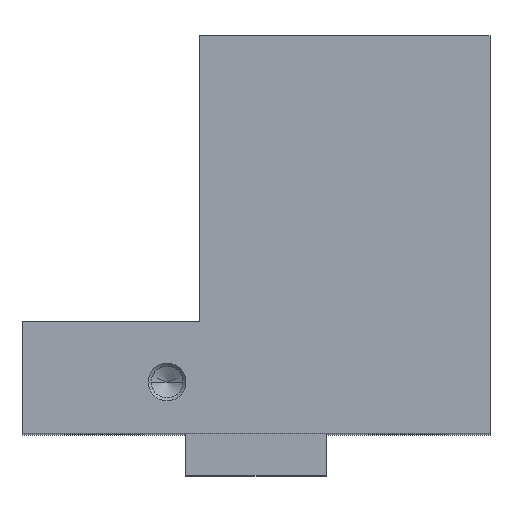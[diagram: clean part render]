
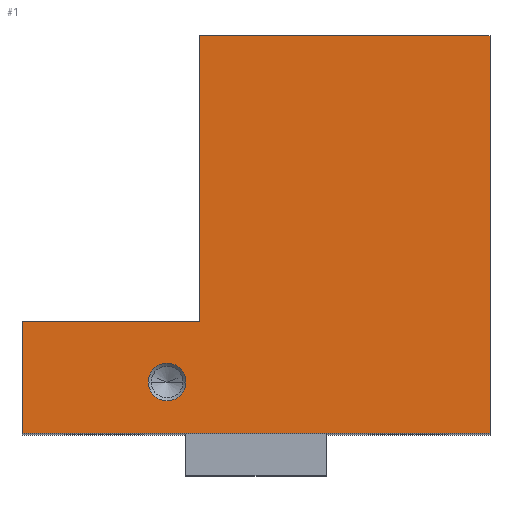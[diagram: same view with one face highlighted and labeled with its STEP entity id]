
A CAD part, top view. The second image highlights one B-rep face of the part: STEP entity #1.
In plain terms, the highlighted planar face has unit normal (0, 0, 1).
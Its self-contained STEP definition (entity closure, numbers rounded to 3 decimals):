
#1 = ADVANCED_FACE ( 'NONE', ( #423, #422 ), #421, .T. ) ;
#8 = EDGE_CURVE ( 'NONE', #303, #84, #412, .T. ) ;
#11 = EDGE_CURVE ( 'NONE', #117, #228, #408, .T. ) ;
#15 = VERTEX_POINT ( 'NONE', #404 ) ;
#17 = EDGE_CURVE ( 'NONE', #228, #15, #573, .T. ) ;
#53 = VERTEX_POINT ( 'NONE', #583 ) ;
#55 = EDGE_CURVE ( 'NONE', #53, #239, #591, .T. ) ;
#81 = VERTEX_POINT ( 'NONE', #808 ) ;
#83 = EDGE_CURVE ( 'NONE', #84, #81, #807, .T. ) ;
#84 = VERTEX_POINT ( 'NONE', #803 ) ;
#100 = EDGE_LOOP ( 'NONE', ( #328, #330 ) ) ;
#117 = VERTEX_POINT ( 'NONE', #627 ) ;
#219 = EDGE_CURVE ( 'NONE', #81, #117, #1448, .T. ) ;
#228 = VERTEX_POINT ( 'NONE', #1429 ) ;
#239 = VERTEX_POINT ( 'NONE', #1413 ) ;
#303 = VERTEX_POINT ( 'NONE', #1248 ) ;
#328 = ORIENTED_EDGE ( 'NONE', *, *, #329, .F. ) ;
#329 = EDGE_CURVE ( 'NONE', #239, #53, #1372, .T. ) ;
#330 = ORIENTED_EDGE ( 'NONE', *, *, #55, .F. ) ;
#404 = CARTESIAN_POINT ( 'NONE',  ( -12., 93.9, 101. ) ) ;
#405 = DIRECTION ( 'NONE',  ( 0., 1., 0. ) ) ;
#406 = VECTOR ( 'NONE', #405, 1000. ) ;
#407 = CARTESIAN_POINT ( 'NONE',  ( 50., 8.9, 101. ) ) ;
#408 = LINE ( 'NONE', #407, #406 ) ;
#409 = DIRECTION ( 'NONE',  ( -1., 0., 0. ) ) ;
#410 = VECTOR ( 'NONE', #409, 1000. ) ;
#411 = CARTESIAN_POINT ( 'NONE',  ( -50., 32.9, 101. ) ) ;
#412 = LINE ( 'NONE', #411, #410 ) ;
#417 = DIRECTION ( 'NONE',  ( 1., 0., 0. ) ) ;
#418 = DIRECTION ( 'NONE',  ( 0., 0., 1. ) ) ;
#419 = CARTESIAN_POINT ( 'NONE',  ( -50., 8.9, 101. ) ) ;
#420 = AXIS2_PLACEMENT_3D ( 'NONE', #419, #418, #417 ) ;
#421 = PLANE ( 'NONE',  #420 ) ;
#422 = FACE_OUTER_BOUND ( 'NONE', #507, .T. ) ;
#423 = FACE_BOUND ( 'NONE', #100, .T. ) ;
#507 = EDGE_LOOP ( 'NONE', ( #508, #509, #510, #511, #512, #513 ) ) ;
#508 = ORIENTED_EDGE ( 'NONE', *, *, #219, .T. ) ;
#509 = ORIENTED_EDGE ( 'NONE', *, *, #11, .T. ) ;
#510 = ORIENTED_EDGE ( 'NONE', *, *, #17, .T. ) ;
#511 = ORIENTED_EDGE ( 'NONE', *, *, #530, .T. ) ;
#512 = ORIENTED_EDGE ( 'NONE', *, *, #8, .T. ) ;
#513 = ORIENTED_EDGE ( 'NONE', *, *, #83, .T. ) ;
#530 = EDGE_CURVE ( 'NONE', #15, #303, #920, .T. ) ;
#570 = DIRECTION ( 'NONE',  ( -1., 0., 0. ) ) ;
#571 = VECTOR ( 'NONE', #570, 1000. ) ;
#572 = CARTESIAN_POINT ( 'NONE',  ( 50., 93.9, 101. ) ) ;
#573 = LINE ( 'NONE', #572, #571 ) ;
#576 = CARTESIAN_POINT ( 'NONE',  ( -19., 19.9, 101. ) ) ;
#583 = CARTESIAN_POINT ( 'NONE',  ( -23.025, 19.9, 101. ) ) ;
#590 = AXIS2_PLACEMENT_3D ( 'NONE', #576, #594, #593 ) ;
#591 = CIRCLE ( 'NONE', #590, 4.025 ) ;
#593 = DIRECTION ( 'NONE',  ( 1., 0., 0. ) ) ;
#594 = DIRECTION ( 'NONE',  ( 0., 0., 1. ) ) ;
#627 = CARTESIAN_POINT ( 'NONE',  ( 50., 8.9, 101. ) ) ;
#803 = CARTESIAN_POINT ( 'NONE',  ( -50., 32.9, 101. ) ) ;
#804 = DIRECTION ( 'NONE',  ( 0., -1., 0. ) ) ;
#805 = VECTOR ( 'NONE', #804, 1000. ) ;
#806 = CARTESIAN_POINT ( 'NONE',  ( -50., 32.9, 101. ) ) ;
#807 = LINE ( 'NONE', #806, #805 ) ;
#808 = CARTESIAN_POINT ( 'NONE',  ( -50., 8.9, 101. ) ) ;
#917 = DIRECTION ( 'NONE',  ( 0., -1., 0. ) ) ;
#918 = VECTOR ( 'NONE', #917, 1000. ) ;
#919 = CARTESIAN_POINT ( 'NONE',  ( -12., 93.9, 101. ) ) ;
#920 = LINE ( 'NONE', #919, #918 ) ;
#1248 = CARTESIAN_POINT ( 'NONE',  ( -12., 32.9, 101. ) ) ;
#1369 = DIRECTION ( 'NONE',  ( 1., 0., 0. ) ) ;
#1370 = DIRECTION ( 'NONE',  ( 0., 0., 1. ) ) ;
#1371 = AXIS2_PLACEMENT_3D ( 'NONE', #1377, #1370, #1369 ) ;
#1372 = CIRCLE ( 'NONE', #1371, 4.025 ) ;
#1377 = CARTESIAN_POINT ( 'NONE',  ( -19., 19.9, 101. ) ) ;
#1413 = CARTESIAN_POINT ( 'NONE',  ( -14.975, 19.9, 101. ) ) ;
#1429 = CARTESIAN_POINT ( 'NONE',  ( 50., 93.9, 101. ) ) ;
#1445 = DIRECTION ( 'NONE',  ( 1., 0., 0. ) ) ;
#1446 = VECTOR ( 'NONE', #1445, 1000. ) ;
#1447 = CARTESIAN_POINT ( 'NONE',  ( -50., 8.9, 101. ) ) ;
#1448 = LINE ( 'NONE', #1447, #1446 ) ;
